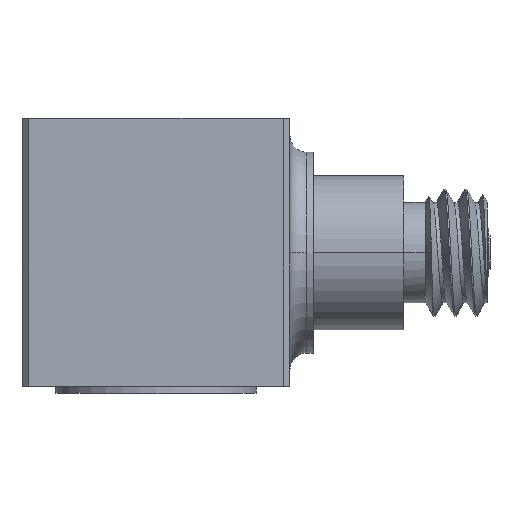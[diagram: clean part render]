
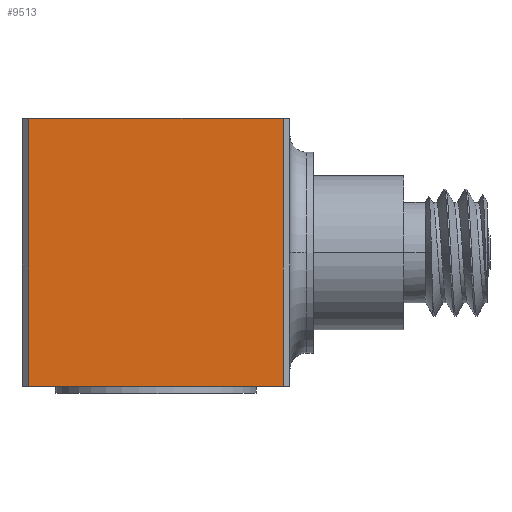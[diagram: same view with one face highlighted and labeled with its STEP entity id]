
A CAD part, top view. The second image highlights one B-rep face of the part: STEP entity #9513.
In plain terms, the highlighted planar face has unit normal (0, 0, 1).
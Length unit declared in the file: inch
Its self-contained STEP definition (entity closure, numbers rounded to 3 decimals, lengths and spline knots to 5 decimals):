
#392 = DIRECTION ( 'NONE',  ( 0., 1., 0. ) ) ;
#1100 = EDGE_CURVE ( 'NONE', #11172, #8487, #16498, .T. ) ;
#1404 = VECTOR ( 'NONE', #12768, 39.37008 ) ;
#1709 = ORIENTED_EDGE ( 'NONE', *, *, #5409, .T. ) ;
#2466 = DIRECTION ( 'NONE',  ( 1., 0., 0. ) ) ;
#2932 = LINE ( 'NONE', #15613, #15907 ) ;
#3092 = FACE_OUTER_BOUND ( 'NONE', #22244, .T. ) ;
#5152 = ORIENTED_EDGE ( 'NONE', *, *, #8051, .F. ) ;
#5409 = EDGE_CURVE ( 'NONE', #8367, #11172, #13393, .T. ) ;
#6935 = DIRECTION ( 'NONE',  ( 0., 0., -1. ) ) ;
#7596 = CARTESIAN_POINT ( 'NONE',  ( -0.19, 0.4, 0.2 ) ) ;
#8051 = EDGE_CURVE ( 'NONE', #8367, #18208, #2932, .T. ) ;
#8367 = VERTEX_POINT ( 'NONE', #7596 ) ;
#8487 = VERTEX_POINT ( 'NONE', #9419 ) ;
#8524 = LINE ( 'NONE', #14179, #18381 ) ;
#9419 = CARTESIAN_POINT ( 'NONE',  ( 0.19, 0., 0.2 ) ) ;
#9513 = ADVANCED_FACE ( 'NONE', ( #3092 ), #22607, .F. ) ;
#9682 = ORIENTED_EDGE ( 'NONE', *, *, #25568, .T. ) ;
#11172 = VERTEX_POINT ( 'NONE', #20819 ) ;
#12768 = DIRECTION ( 'NONE',  ( 1., 0., 0. ) ) ;
#13393 = LINE ( 'NONE', #24363, #18603 ) ;
#14179 = CARTESIAN_POINT ( 'NONE',  ( 0.19, 0.4, 0.2 ) ) ;
#15613 = CARTESIAN_POINT ( 'NONE',  ( -0.2, 0.4, 0.2 ) ) ;
#15907 = VECTOR ( 'NONE', #2466, 39.37008 ) ;
#16434 = DIRECTION ( 'NONE',  ( 0., -1., 0. ) ) ;
#16498 = LINE ( 'NONE', #19779, #1404 ) ;
#18208 = VERTEX_POINT ( 'NONE', #23974 ) ;
#18381 = VECTOR ( 'NONE', #392, 39.37008 ) ;
#18603 = VECTOR ( 'NONE', #16434, 39.37008 ) ;
#18714 = CARTESIAN_POINT ( 'NONE',  ( -0.2, 0.4, 0.2 ) ) ;
#19779 = CARTESIAN_POINT ( 'NONE',  ( -0.2, 0., 0.2 ) ) ;
#20681 = DIRECTION ( 'NONE',  ( -1., 0., 0. ) ) ;
#20819 = CARTESIAN_POINT ( 'NONE',  ( -0.19, 0., 0.2 ) ) ;
#22244 = EDGE_LOOP ( 'NONE', ( #5152, #1709, #24441, #9682 ) ) ;
#22607 = PLANE ( 'NONE',  #24686 ) ;
#23974 = CARTESIAN_POINT ( 'NONE',  ( 0.19, 0.4, 0.2 ) ) ;
#24363 = CARTESIAN_POINT ( 'NONE',  ( -0.19, 0.4, 0.2 ) ) ;
#24441 = ORIENTED_EDGE ( 'NONE', *, *, #1100, .T. ) ;
#24686 = AXIS2_PLACEMENT_3D ( 'NONE', #18714, #6935, #20681 ) ;
#25568 = EDGE_CURVE ( 'NONE', #8487, #18208, #8524, .T. ) ;
